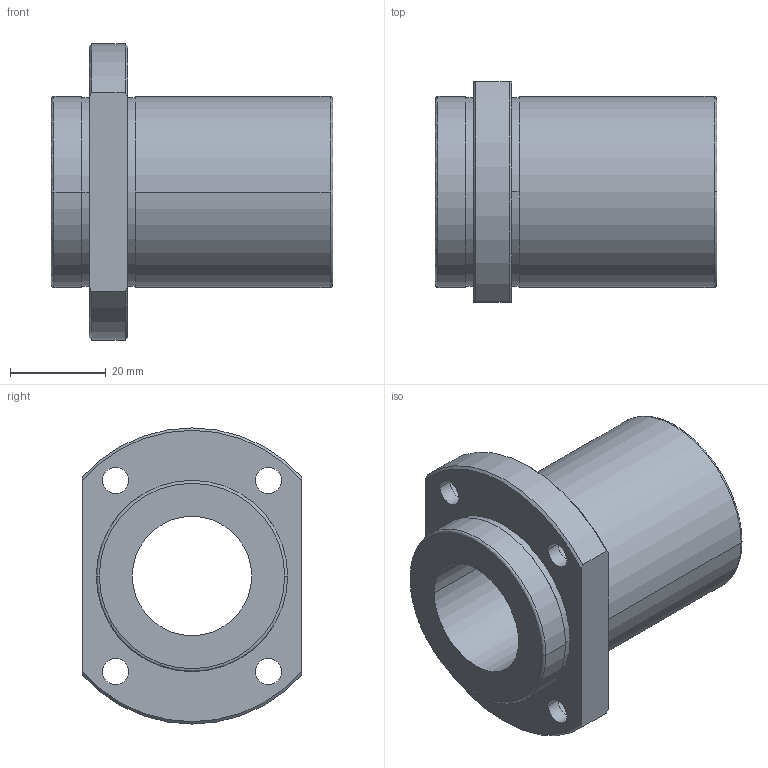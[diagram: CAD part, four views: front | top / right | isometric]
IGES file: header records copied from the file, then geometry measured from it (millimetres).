
Start section: 3D InterOp IGES (Version 21 0 1), Spatial Corp. Copyright (c) 1999-2007.
Global section: file name: NFIO25.igs; native system: Spatial Corp.; preprocessor: 3D InterOp GENERIC/IGES 3.0; author: Noname; organization: Noname; date: 20220307.110950; units: millimetre
Bounding box: 59 x 46 x 62 mm (x, y, z)
Surface area: 17260.8 mm2 (no closed solid volume)
Topology: 0 solids, 0 shells, 48 faces, 224 edges, 224 vertices
Faces by surface type: revolution 36, extrusion 12
